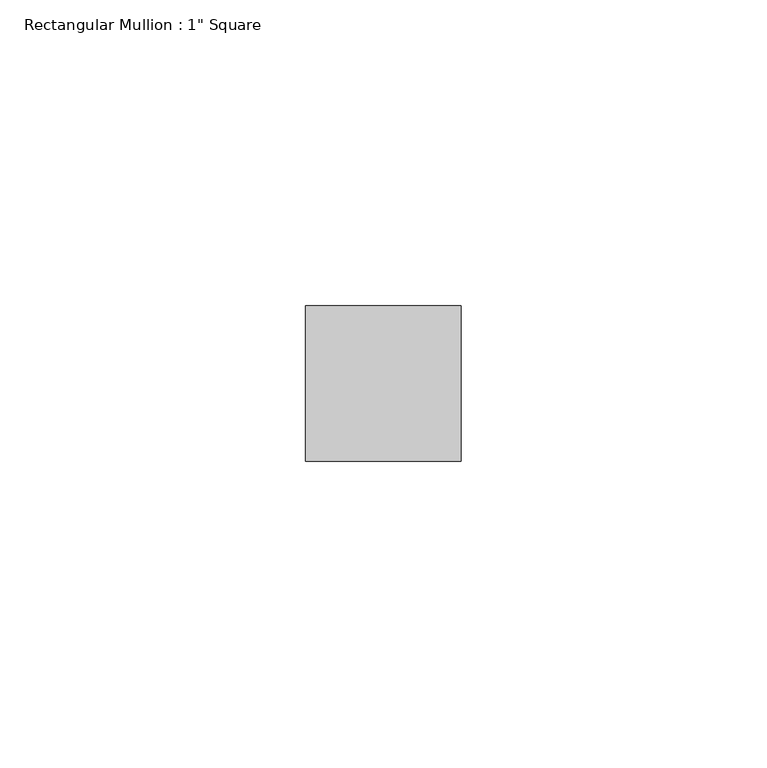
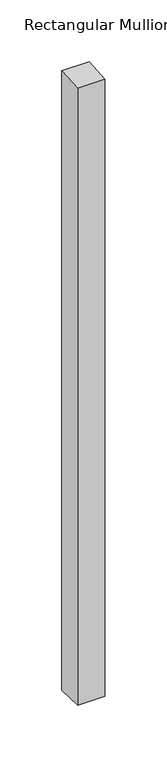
"""IFC4 building model written with IfcOpenShell, lengths in millimetres: member geometry."""

from ifc_helpers import new_model, si_unit, origin, place, context, project, spatial, faceted_brep, source, transform, mapped, element, save


def member_3142c306(model_context):
    return source(origin(), model_context, "Body", "Brep", [
        faceted_brep([(-25.4, 12.7, 0.7530977), (0.0, 12.7, 0.7587359), (0.0, 12.7, -610.1286417), (-25.4, 12.7, -610.1247134), (-25.4, -12.7, -0.7643741), (-25.4, -12.7, -609.0674299), (0.0, -12.7, -0.7587359), (0.0, -12.7, -609.0713583)], [[[0, 1, 2, 3]], [[4, 0, 3, 5]], [[6, 4, 5, 7]], [[1, 6, 7, 2]], [[1, 0, 4, 6]], [[2, 7, 5, 3]]]),
    ])


if __name__ == "__main__":
    model = new_model("IFC4")
    model_context = context("Model", 3, world=origin())
    ifc_project = project(units=[si_unit("LENGTHUNIT", "METRE", prefix="MILLI")], contexts=[model_context])
    site = spatial("IfcSite", under=ifc_project)
    building = spatial("IfcBuilding", under=site)
    placement = place(None, origin())
    member_shape = member_3142c306(model_context)
    element("IfcMember", 1, ObjectType="Rectangular Mullion : 1\" Square", at=placement, inside=building, context=model_context, shape_type="MappedRepresentation", body=[
        mapped(member_shape, transform((0.0, 0.0, 0.0), x_axis=(1.0, 0.0, 0.0), y_axis=(0.0, 1.0, 0.0), z_axis=(0.0, 0.0, 1.0))),
    ])
    save(model, "model.ifc")
